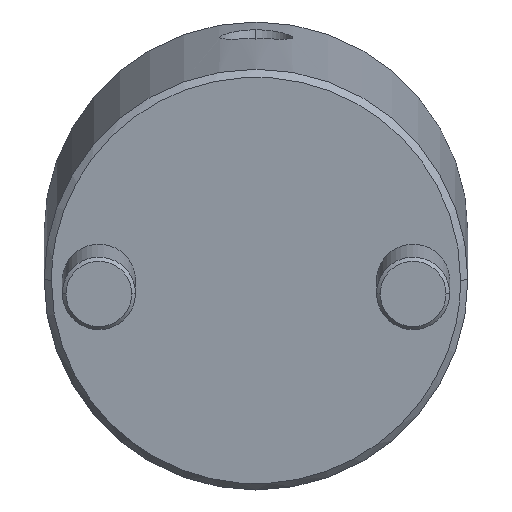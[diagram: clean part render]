
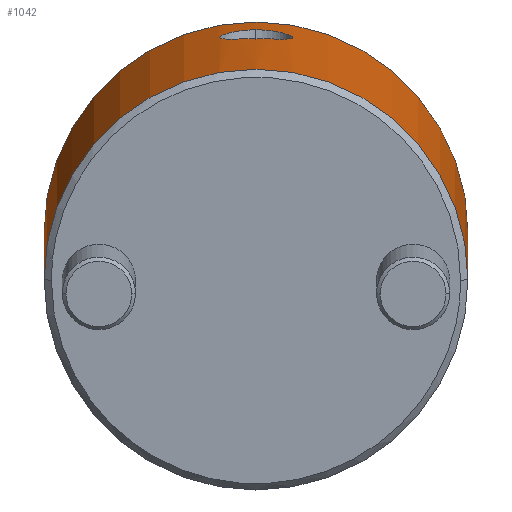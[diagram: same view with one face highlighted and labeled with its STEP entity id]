
A CAD part, front view. The second image highlights one B-rep face of the part: STEP entity #1042.
In plain terms, the highlighted cylindrical face has radius 29 mm (diameter 58 mm), a partial arc.
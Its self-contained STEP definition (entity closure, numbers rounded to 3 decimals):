
#772=CARTESIAN_POINT('Vertex',(0.,29.,1.)) ;
#775=CARTESIAN_POINT('Axis2P3D Location',(0.,0.,1.)) ;
#779=CARTESIAN_POINT('Vertex',(0.,-29.,1.)) ;
#931=CARTESIAN_POINT('Axis2P3D Location',(0.,0.,-2.75)) ;
#936=CARTESIAN_POINT('Line Origine',(0.,29.,-2.75)) ;
#940=CARTESIAN_POINT('Vertex',(0.,29.,54.)) ;
#943=CARTESIAN_POINT('Axis2P3D Location',(0.,0.,54.)) ;
#947=CARTESIAN_POINT('Vertex',(0.,-29.,54.)) ;
#950=CARTESIAN_POINT('Line Origine',(0.,-29.,-2.75)) ;
#962=CARTESIAN_POINT('Control Point',(29.,0.,45.192)) ;
#963=CARTESIAN_POINT('Control Point',(29.,0.432,45.192)) ;
#964=CARTESIAN_POINT('Control Point',(28.992,0.86,45.145)) ;
#965=CARTESIAN_POINT('Control Point',(28.976,1.284,45.049)) ;
#966=CARTESIAN_POINT('Control Point',(28.942,1.899,44.838)) ;
#967=CARTESIAN_POINT('Control Point',(28.895,2.472,44.529)) ;
#968=CARTESIAN_POINT('Control Point',(28.879,2.66,44.414)) ;
#969=CARTESIAN_POINT('Control Point',(28.844,3.021,44.165)) ;
#970=CARTESIAN_POINT('Control Point',(28.806,3.354,43.877)) ;
#971=CARTESIAN_POINT('Control Point',(28.787,3.513,43.724)) ;
#972=CARTESIAN_POINT('Control Point',(28.739,3.89,43.318)) ;
#973=CARTESIAN_POINT('Control Point',(28.694,4.211,42.864)) ;
#974=CARTESIAN_POINT('Control Point',(28.668,4.38,42.576)) ;
#975=CARTESIAN_POINT('Control Point',(28.614,4.721,41.876)) ;
#976=CARTESIAN_POINT('Control Point',(28.579,4.924,41.129)) ;
#977=CARTESIAN_POINT('Control Point',(28.567,4.994,40.69)) ;
#978=CARTESIAN_POINT('Control Point',(28.561,5.028,40.032)) ;
#979=CARTESIAN_POINT('Control Point',(28.574,4.955,39.378)) ;
#980=CARTESIAN_POINT('Control Point',(28.58,4.919,39.162)) ;
#981=CARTESIAN_POINT('Control Point',(28.596,4.824,38.737)) ;
#982=CARTESIAN_POINT('Control Point',(28.619,4.684,38.325)) ;
#983=CARTESIAN_POINT('Control Point',(28.633,4.603,38.124)) ;
#984=CARTESIAN_POINT('Control Point',(28.662,4.418,37.729)) ;
#985=CARTESIAN_POINT('Control Point',(28.696,4.192,37.358)) ;
#986=CARTESIAN_POINT('Control Point',(28.714,4.068,37.179)) ;
#987=CARTESIAN_POINT('Control Point',(28.751,3.802,36.834)) ;
#988=CARTESIAN_POINT('Control Point',(28.789,3.499,36.521)) ;
#989=CARTESIAN_POINT('Control Point',(28.808,3.34,36.373)) ;
#990=CARTESIAN_POINT('Control Point',(28.845,3.005,36.094)) ;
#991=CARTESIAN_POINT('Control Point',(28.88,2.64,35.854)) ;
#992=CARTESIAN_POINT('Control Point',(28.897,2.45,35.743)) ;
#993=CARTESIAN_POINT('Control Point',(28.943,1.879,35.45)) ;
#994=CARTESIAN_POINT('Control Point',(28.977,1.266,35.25)) ;
#995=CARTESIAN_POINT('Control Point',(28.992,0.846,35.161)) ;
#996=CARTESIAN_POINT('Control Point',(29.,0.425,35.117)) ;
#997=CARTESIAN_POINT('Control Point',(29.,0.,35.117)) ;
#998=CARTESIAN_POINT('Vertex',(29.,0.,45.192)) ;
#1000=CARTESIAN_POINT('Vertex',(29.,0.,35.117)) ;
#1004=CARTESIAN_POINT('Control Point',(29.,0.,35.117)) ;
#1005=CARTESIAN_POINT('Control Point',(29.,-0.219,35.117)) ;
#1006=CARTESIAN_POINT('Control Point',(28.998,-0.438,35.129)) ;
#1007=CARTESIAN_POINT('Control Point',(28.994,-0.654,35.152)) ;
#1008=CARTESIAN_POINT('Control Point',(28.982,-1.087,35.223)) ;
#1009=CARTESIAN_POINT('Control Point',(28.962,-1.509,35.34)) ;
#1010=CARTESIAN_POINT('Control Point',(28.95,-1.716,35.409)) ;
#1011=CARTESIAN_POINT('Control Point',(28.924,-2.122,35.571)) ;
#1012=CARTESIAN_POINT('Control Point',(28.892,-2.509,35.776)) ;
#1013=CARTESIAN_POINT('Control Point',(28.875,-2.697,35.889)) ;
#1014=CARTESIAN_POINT('Control Point',(28.822,-3.238,36.256)) ;
#1015=CARTESIAN_POINT('Control Point',(28.764,-3.712,36.708)) ;
#1016=CARTESIAN_POINT('Control Point',(28.725,-3.995,37.044)) ;
#1017=CARTESIAN_POINT('Control Point',(28.672,-4.359,37.589)) ;
#1018=CARTESIAN_POINT('Control Point',(28.628,-4.629,38.185)) ;
#1019=CARTESIAN_POINT('Control Point',(28.616,-4.707,38.388)) ;
#1020=CARTESIAN_POINT('Control Point',(28.593,-4.842,38.801)) ;
#1021=CARTESIAN_POINT('Control Point',(28.578,-4.931,39.227)) ;
#1022=CARTESIAN_POINT('Control Point',(28.572,-4.964,39.445)) ;
#1023=CARTESIAN_POINT('Control Point',(28.561,-5.029,40.099)) ;
#1024=CARTESIAN_POINT('Control Point',(28.568,-4.986,40.757)) ;
#1025=CARTESIAN_POINT('Control Point',(28.581,-4.911,41.195)) ;
#1026=CARTESIAN_POINT('Control Point',(28.623,-4.666,42.047)) ;
#1027=CARTESIAN_POINT('Control Point',(28.689,-4.244,42.835)) ;
#1028=CARTESIAN_POINT('Control Point',(28.726,-3.992,43.203)) ;
#1029=CARTESIAN_POINT('Control Point',(28.803,-3.411,43.879)) ;
#1030=CARTESIAN_POINT('Control Point',(28.877,-2.708,44.408)) ;
#1031=CARTESIAN_POINT('Control Point',(28.91,-2.329,44.633)) ;
#1032=CARTESIAN_POINT('Control Point',(28.959,-1.65,44.942)) ;
#1033=CARTESIAN_POINT('Control Point',(28.988,-0.925,45.118)) ;
#1034=CARTESIAN_POINT('Control Point',(28.996,-0.618,45.168)) ;
#1035=CARTESIAN_POINT('Control Point',(29.,-0.31,45.192)) ;
#1036=CARTESIAN_POINT('Control Point',(29.,0.,45.192)) ;
#776=DIRECTION('Axis2P3D Direction',(0.,0.,1.)) ;
#932=DIRECTION('Axis2P3D Direction',(0.,-0.,1.)) ;
#933=DIRECTION('Axis2P3D XDirection',(0.,-1.,0.)) ;
#937=DIRECTION('Vector Direction',(0.,0.,1.)) ;
#944=DIRECTION('Axis2P3D Direction',(0.,-0.,1.)) ;
#951=DIRECTION('Vector Direction',(0.,0.,1.)) ;
#777=AXIS2_PLACEMENT_3D('Circle Axis2P3D',#775,#776,$) ;
#934=AXIS2_PLACEMENT_3D('Cylinder Axis2P3D',#931,#932,#933) ;
#945=AXIS2_PLACEMENT_3D('Circle Axis2P3D',#943,#944,$) ;
#956=ORIENTED_EDGE('',*,*,#942,.F.) ;
#957=ORIENTED_EDGE('',*,*,#949,.T.) ;
#958=ORIENTED_EDGE('',*,*,#954,.T.) ;
#959=ORIENTED_EDGE('',*,*,#781,.F.) ;
#1039=ORIENTED_EDGE('',*,*,#1002,.T.) ;
#1040=ORIENTED_EDGE('',*,*,#1037,.T.) ;
#1041=FACE_BOUND('',#1038,.T.) ;
#938=VECTOR('Line Direction',#937,1.) ;
#952=VECTOR('Line Direction',#951,1.) ;
#1042=ADVANCED_FACE('MANIFOLD_SOLID_BREP #1144',(#960,#1041),#935,.T.) ;
#961=B_SPLINE_CURVE_WITH_KNOTS('',5,(#962,#963,#964,#965,#966,#967,#968,#969,#970,#971,#972,#973,#974,#975,#976,#977,#978,#979,#980,#981,#982,#983,#984,#985,#986,#987,#988,#989,#990,#991,#992,#993,#994,#995,#996,#997),.UNSPECIFIED.,.F.,.U.,(6,3,3,3,3,3,3,3,3,3,3,6),(0.,3.075,4.626,6.186,8.52,11.622,13.164,14.707,16.25,17.799,19.348,22.349),.UNSPECIFIED.) ;
#1003=B_SPLINE_CURVE_WITH_KNOTS('',5,(#1004,#1005,#1006,#1007,#1008,#1009,#1010,#1011,#1012,#1013,#1014,#1015,#1016,#1017,#1018,#1019,#1020,#1021,#1022,#1023,#1024,#1025,#1026,#1027,#1028,#1029,#1030,#1031,#1032,#1033,#1034,#1035,#1036),.UNSPECIFIED.,.F.,.U.,(6,3,3,3,3,3,3,3,3,3,6),(0.,1.549,3.098,4.646,7.739,9.281,10.823,13.925,17.042,20.14,22.346),.UNSPECIFIED.) ;
#778=CIRCLE('generated circle',#777,29.) ;
#946=CIRCLE('generated circle',#945,29.) ;
#935=CYLINDRICAL_SURFACE('generated cylinder',#934,29.) ;
#781=EDGE_CURVE('',#773,#780,#778,.F.) ;
#942=EDGE_CURVE('',#941,#773,#939,.F.) ;
#949=EDGE_CURVE('',#941,#948,#946,.F.) ;
#954=EDGE_CURVE('',#948,#780,#953,.F.) ;
#1002=EDGE_CURVE('',#999,#1001,#961,.T.) ;
#1037=EDGE_CURVE('',#1001,#999,#1003,.T.) ;
#955=EDGE_LOOP('',(#956,#957,#958,#959)) ;
#1038=EDGE_LOOP('',(#1039,#1040)) ;
#960=FACE_OUTER_BOUND('',#955,.T.) ;
#939=LINE('Line',#936,#938) ;
#953=LINE('Line',#950,#952) ;
#773=VERTEX_POINT('',#772) ;
#780=VERTEX_POINT('',#779) ;
#941=VERTEX_POINT('',#940) ;
#948=VERTEX_POINT('',#947) ;
#999=VERTEX_POINT('',#998) ;
#1001=VERTEX_POINT('',#1000) ;
